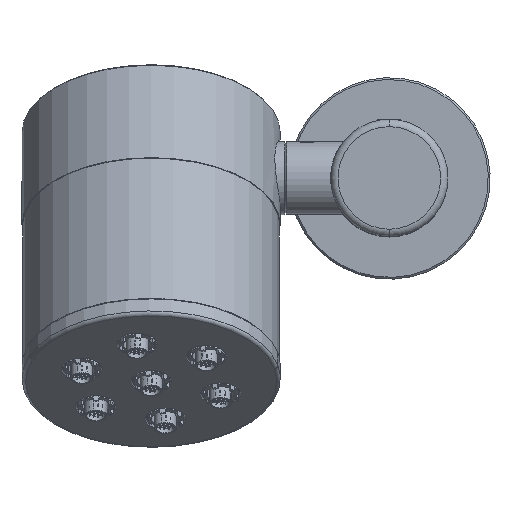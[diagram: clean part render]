
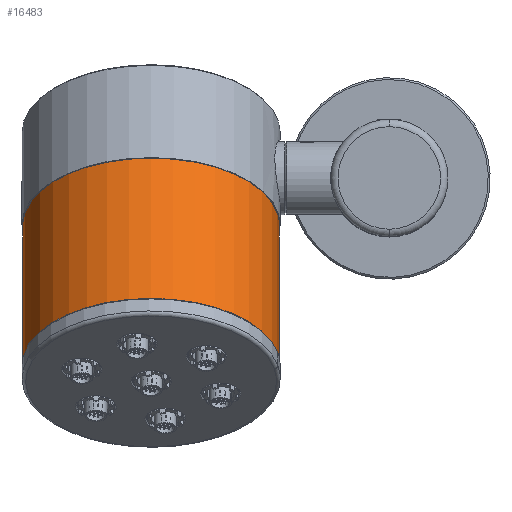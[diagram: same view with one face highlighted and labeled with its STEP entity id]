
A CAD part, top view. The second image highlights one B-rep face of the part: STEP entity #16483.
In plain terms, the highlighted cylindrical face has radius 35 mm (diameter 70 mm), a partial arc.
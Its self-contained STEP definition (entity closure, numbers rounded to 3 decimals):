
#1378 = DIRECTION ( 'NONE',  ( -1., 0., 0. ) ) ;
#1471 = CYLINDRICAL_SURFACE ( 'NONE', #18342, 35. ) ;
#2780 = CARTESIAN_POINT ( 'NONE',  ( 0., 0., 45. ) ) ;
#2885 = DIRECTION ( 'NONE',  ( 0., 0., -1. ) ) ;
#2963 = LINE ( 'NONE', #9298, #8300 ) ;
#3637 = ORIENTED_EDGE ( 'NONE', *, *, #12860, .F. ) ;
#3845 = VERTEX_POINT ( 'NONE', #19547 ) ;
#4521 = CIRCLE ( 'NONE', #15753, 35. ) ;
#4875 = VERTEX_POINT ( 'NONE', #6221 ) ;
#5882 = CARTESIAN_POINT ( 'NONE',  ( 35., 0., 45. ) ) ;
#6210 = ORIENTED_EDGE ( 'NONE', *, *, #14556, .F. ) ;
#6221 = CARTESIAN_POINT ( 'NONE',  ( -35., 0., 45. ) ) ;
#6765 = EDGE_CURVE ( 'NONE', #3845, #10243, #16251, .T. ) ;
#7324 = CIRCLE ( 'NONE', #14383, 35. ) ;
#7955 = EDGE_CURVE ( 'NONE', #10243, #14623, #7324, .T. ) ;
#8300 = VECTOR ( 'NONE', #15543, 1000. ) ;
#9029 = CARTESIAN_POINT ( 'NONE',  ( 0., 0., 45. ) ) ;
#9298 = CARTESIAN_POINT ( 'NONE',  ( -35., 0., 45. ) ) ;
#10243 = VERTEX_POINT ( 'NONE', #13304 ) ;
#10401 = DIRECTION ( 'NONE',  ( 0., 0., -1. ) ) ;
#12050 = FACE_OUTER_BOUND ( 'NONE', #12653, .T. ) ;
#12161 = DIRECTION ( 'NONE',  ( 1., 0., 0. ) ) ;
#12653 = EDGE_LOOP ( 'NONE', ( #3637, #16256, #15005, #6210 ) ) ;
#12860 = EDGE_CURVE ( 'NONE', #3845, #4875, #4521, .T. ) ;
#13242 = DIRECTION ( 'NONE',  ( 0., 0., 1. ) ) ;
#13304 = CARTESIAN_POINT ( 'NONE',  ( 35., 0., 0. ) ) ;
#13545 = DIRECTION ( 'NONE',  ( 1., 0., 0. ) ) ;
#14051 = DIRECTION ( 'NONE',  ( 0., 0., 1. ) ) ;
#14383 = AXIS2_PLACEMENT_3D ( 'NONE', #19594, #13242, #13545 ) ;
#14556 = EDGE_CURVE ( 'NONE', #4875, #14623, #2963, .T. ) ;
#14623 = VERTEX_POINT ( 'NONE', #18582 ) ;
#15005 = ORIENTED_EDGE ( 'NONE', *, *, #7955, .T. ) ;
#15543 = DIRECTION ( 'NONE',  ( 0., 0., -1. ) ) ;
#15753 = AXIS2_PLACEMENT_3D ( 'NONE', #9029, #14051, #12161 ) ;
#16251 = LINE ( 'NONE', #5882, #17900 ) ;
#16256 = ORIENTED_EDGE ( 'NONE', *, *, #6765, .T. ) ;
#16483 = ADVANCED_FACE ( 'NONE', ( #12050 ), #1471, .T. ) ;
#17900 = VECTOR ( 'NONE', #10401, 1000. ) ;
#18342 = AXIS2_PLACEMENT_3D ( 'NONE', #2780, #2885, #1378 ) ;
#18582 = CARTESIAN_POINT ( 'NONE',  ( -35., 0., 0. ) ) ;
#19547 = CARTESIAN_POINT ( 'NONE',  ( 35., 0., 45. ) ) ;
#19594 = CARTESIAN_POINT ( 'NONE',  ( 0., 0., 0. ) ) ;
